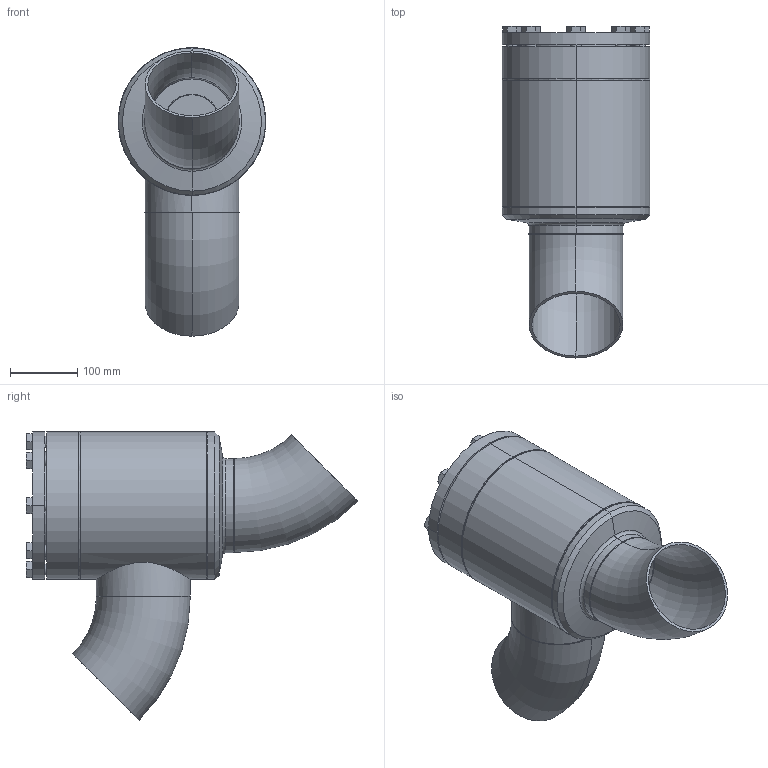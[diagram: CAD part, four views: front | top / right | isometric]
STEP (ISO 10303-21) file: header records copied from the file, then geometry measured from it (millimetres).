
FILE_DESCRIPTION (( 'STEP AP214' ), '1' );
FILE_NAME ('RV28300D20-DN125_R1_PS40.STEP', '2006-04-28T05:16:42', ( 'Herr Grams' ), ( 'AWP GmbH' ), 'SwSTEP 2.0', 'SolidWorks 2002296', '' );
FILE_SCHEMA (( 'AUTOMOTIVE_DESIGN' ));
Length unit declared in the file: millimetre
Products named in the file (17): RV28300D20-DN125_R1_PS40; Gehäuse-kpl16300-DN125_R1_Standard; Gehäuse16300-DN125_Standard; Boden16300-DN125_Standard; Rohrstutzen-A16300-DN125_R1_Standard; Kopfstück16300-DN125_Standard; bead-DN125-4_Standard; bead-DN125-3_Standard; bead-DN125-2_Standard; bead-DN125-1_Standard; Rohrbogen 45°_Rohrbogen-DN125-45°; RV28300E20_Deck+Schr-DN125_Standard; Deckel-kpl28300E20-DN125_Standard; Buchse f Deckel28300-DN125_Standard; Scheibe f Deckel28300-DN125_Standard; bead-deck283-125_Standard; Sechskantschraube-DIN933_M16x 45
Assembly tree (24 placements, depth 4):
  RV28300D20-DN125_R1_PS40
    Gehäuse-kpl16300-DN125_R1_Standard
      bead-DN125-2_Standard
      bead-DN125-1_Standard
      Boden16300-DN125_Standard
      Gehäuse16300-DN125_Standard
      Rohrbogen 45°_Rohrbogen-DN125-45°  x2
      bead-DN125-3_Standard
      bead-DN125-4_Standard
      Rohrstutzen-A16300-DN125_R1_Standard
      Kopfstück16300-DN125_Standard
    RV28300E20_Deck+Schr-DN125_Standard
      Sechskantschraube-DIN933_M16x 45  x8
      Deckel-kpl28300E20-DN125_Standard
        bead-deck283-125_Standard
        Buchse f Deckel28300-DN125_Standard
        Scheibe f Deckel28300-DN125_Standard
Bounding box: 219.55 x 493.74 x 429.02 mm (x, y, z)
Volume: 5405520.5 mm3; surface area: 1005505.3 mm2
Topology: 21 solids, 21 shells, 317 faces, 672 edges, 406 vertices
Faces by surface type: cone 120, plane 102, cylinder 67, bspline 18, torus 10
Entity records: 7390 total; most frequent: CARTESIAN_POINT 3626, DIRECTION 632, ORIENTED_EDGE 592, EDGE_CURVE 296, AXIS2_PLACEMENT_3D 280, VERTEX_POINT 188, EDGE_LOOP 176, FACE_OUTER_BOUND 136
